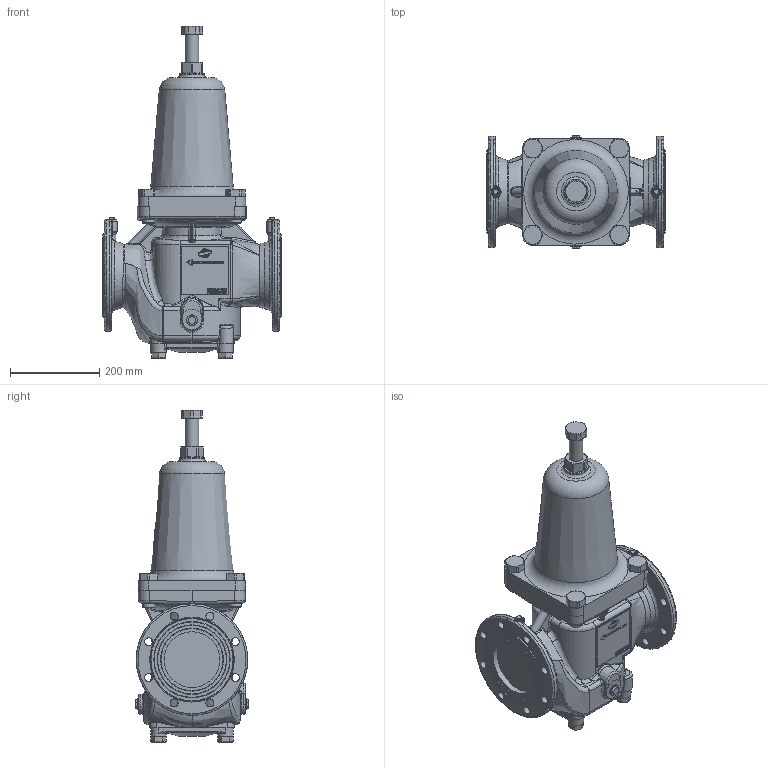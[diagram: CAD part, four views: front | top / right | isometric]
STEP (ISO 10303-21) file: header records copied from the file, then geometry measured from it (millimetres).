
FILE_DESCRIPTION(/* description */ (''),/* implementation_level */ '2;1');
FILE_NAME(/* name */ 'U:/AirCom-Produktdokumentation/Druckregler/RWF/Zeichnungen/CAD-Aircom/3D/B-RWF-40C.step',/* time_stamp */ '2022-07-01T13:53:00+02:00',/* author */ (''),/* organization */ (''),/* preprocessor_version */ 'ST-DEVELOPER v19',/* originating_system */ 'Autodesk Translation Framework v11.7.0.108',/* authorisation */ '');
FILE_SCHEMA (('AUTOMOTIVE_DESIGN { 1 0 10303 214 3 1 1 }'));
Length unit declared in the file: millimetre
Products named in the file (1): 006211_step
Bounding box: 400 x 255 x 743.92 mm (x, y, z)
Volume: 22487504.5 mm3; surface area: 822111.4 mm2
Topology: 1 solids, 2 shells, 1373 faces, 3290 edges, 1958 vertices
Faces by surface type: bspline 481, cylinder 398, plane 274, cone 133, torus 69, sphere 18
Full cylindrical faces by diameter (mm): 16.5 x2, 18 x16, 20 x2, 25 x2, 27 x4, 28.19 x4, 29 x3, 30 x1, 32 x1, 54 x1, 125 x1, 140 x1, 184 x2, 250 x2
Entity records: 72923 total; most frequent: CARTESIAN_POINT 44202, ORIENTED_EDGE 6526, DIRECTION 5105, EDGE_CURVE 3263, AXIS2_PLACEMENT_3D 2059, VERTEX_POINT 1958, EDGE_LOOP 1471, FACE_OUTER_BOUND 1373
